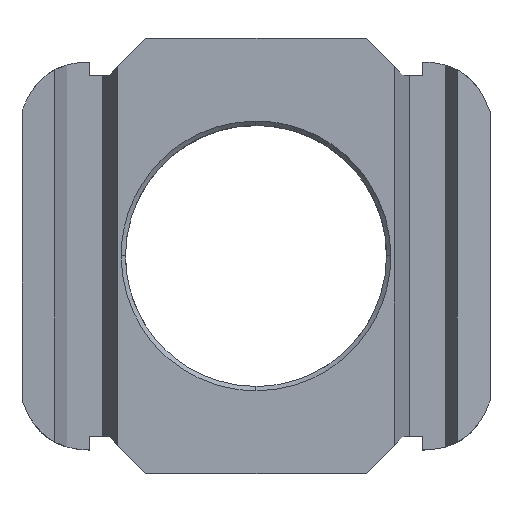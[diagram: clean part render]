
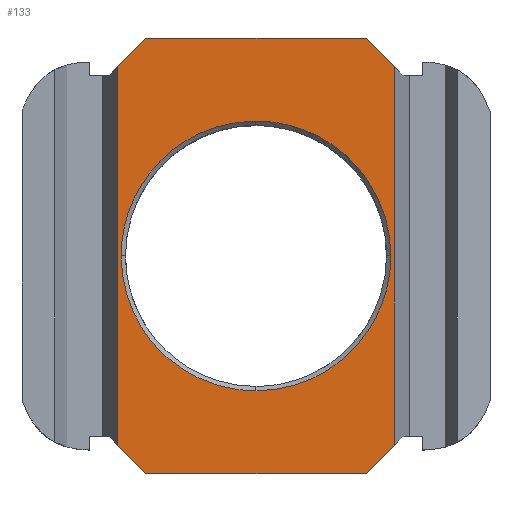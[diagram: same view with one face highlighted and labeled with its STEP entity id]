
A CAD part, top view. The second image highlights one B-rep face of the part: STEP entity #133.
In plain terms, the highlighted planar face has unit normal (0, 0, 1).
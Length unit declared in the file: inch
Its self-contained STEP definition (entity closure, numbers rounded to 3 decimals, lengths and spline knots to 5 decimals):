
#133=ADVANCED_FACE('',(#265,#266),#267,.T.);
#265=FACE_OUTER_BOUND('',#668,.T.);
#266=FACE_BOUND('',#669,.T.);
#267=PLANE('',#670);
#668=EDGE_LOOP('',(#1060,#1061,#1062,#1063,#1064,#1065,#1066,#1067));
#669=EDGE_LOOP('',(#1068,#1069,#1070,#1071));
#670=AXIS2_PLACEMENT_3D('',#1072,#1073,#1074);
#1060=ORIENTED_EDGE('',*,*,#1142,.T.);
#1061=ORIENTED_EDGE('',*,*,#1240,.F.);
#1062=ORIENTED_EDGE('',*,*,#1253,.T.);
#1063=ORIENTED_EDGE('',*,*,#1154,.F.);
#1064=ORIENTED_EDGE('',*,*,#1205,.T.);
#1065=ORIENTED_EDGE('',*,*,#1162,.T.);
#1066=ORIENTED_EDGE('',*,*,#1177,.T.);
#1067=ORIENTED_EDGE('',*,*,#1260,.T.);
#1068=ORIENTED_EDGE('',*,*,#1228,.F.);
#1069=ORIENTED_EDGE('',*,*,#1257,.F.);
#1070=ORIENTED_EDGE('',*,*,#1261,.F.);
#1071=ORIENTED_EDGE('',*,*,#1180,.F.);
#1072=CARTESIAN_POINT('',(0.47795,1.18241,0.375));
#1073=DIRECTION('',(0.0,0.0,1.0));
#1074=DIRECTION('',(-1.0,0.0,-0.0));
#1142=EDGE_CURVE('',#1313,#1310,#1314,.T.);
#1154=EDGE_CURVE('',#1332,#1327,#1334,.T.);
#1162=EDGE_CURVE('',#1347,#1345,#1348,.T.);
#1177=EDGE_CURVE('',#1345,#1372,#1374,.T.);
#1180=EDGE_CURVE('',#1376,#1379,#1380,.T.);
#1205=EDGE_CURVE('',#1332,#1347,#1415,.T.);
#1228=EDGE_CURVE('',#1445,#1376,#1447,.T.);
#1240=EDGE_CURVE('',#1459,#1310,#1461,.T.);
#1253=EDGE_CURVE('',#1459,#1327,#1475,.T.);
#1257=EDGE_CURVE('',#1478,#1445,#1480,.T.);
#1260=EDGE_CURVE('',#1372,#1313,#1483,.T.);
#1261=EDGE_CURVE('',#1379,#1478,#1484,.T.);
#1310=VERTEX_POINT('',#1569);
#1313=VERTEX_POINT('',#1573);
#1314=LINE('',#1574,#1575);
#1327=VERTEX_POINT('',#1594);
#1332=VERTEX_POINT('',#1601);
#1334=LINE('',#1604,#1605);
#1345=VERTEX_POINT('',#1632);
#1347=VERTEX_POINT('',#1635);
#1348=LINE('',#1636,#1637);
#1372=VERTEX_POINT('',#1687);
#1374=LINE('',#1690,#1691);
#1376=VERTEX_POINT('',#1693);
#1379=VERTEX_POINT('',#1697);
#1380=B_SPLINE_CURVE_WITH_KNOTS('',3,(#1698,#1699,#1700,#1701,#1702,#1703,#1704,#1705,#1706,#1707,#1708,#1709,#1710,#1711),.UNSPECIFIED.,.F.,.F.,(4,2,2,2,2,2,4),(0.0,0.00527,0.15801,0.30248,0.30952,0.45689,0.60495),.UNSPECIFIED.);
#1415=LINE('',#1787,#1788);
#1445=VERTEX_POINT('',#1851);
#1447=B_SPLINE_CURVE_WITH_KNOTS('',3,(#1854,#1855,#1856,#1857,#1858,#1859,#1860,#1861,#1862,#1863,#1864,#1865,#1866,#1867),.UNSPECIFIED.,.F.,.F.,(4,2,2,2,2,2,4),(0.0,0.08057,0.15874,0.30284,0.31025,0.45762,0.60569),.UNSPECIFIED.);
#1459=VERTEX_POINT('',#1896);
#1461=LINE('',#1899,#1900);
#1475=LINE('',#1928,#1929);
#1478=VERTEX_POINT('',#1945);
#1480=B_SPLINE_CURVE_WITH_KNOTS('',3,(#1948,#1949,#1950,#1951,#1952,#1953,#1954,#1955,#1956,#1957,#1958,#1959,#1960,#1961),.UNSPECIFIED.,.F.,.F.,(4,2,2,2,2,2,4),(0.0,0.14806,0.29542,0.30248,0.44694,0.59968,0.60495),.UNSPECIFIED.);
#1483=LINE('',#1964,#1965);
#1484=B_SPLINE_CURVE_WITH_KNOTS('',3,(#1966,#1967,#1968,#1969,#1970,#1971,#1972,#1973,#1974,#1975,#1976,#1977),.UNSPECIFIED.,.F.,.F.,(4,2,2,2,2,4),(0.0,0.15079,0.26365,0.30243,0.45406,0.60485),.UNSPECIFIED.);
#1569=CARTESIAN_POINT('',(0.8753,0.01316,0.375));
#1573=CARTESIAN_POINT('',(0.79456,-0.06759,0.375));
#1574=CARTESIAN_POINT('',(1.05432,0.19218,0.375));
#1575=VECTOR('',#1998,1.0);
#1594=CARTESIAN_POINT('',(0.79443,1.18241,0.375));
#1601=CARTESIAN_POINT('',(0.16146,1.18241,0.375));
#1604=CARTESIAN_POINT('',(0.08059,1.18241,0.375));
#1605=VECTOR('',#2008,1.0);
#1632=CARTESIAN_POINT('',(0.08059,0.01316,0.375));
#1635=CARTESIAN_POINT('',(0.08059,1.10155,0.375));
#1636=CARTESIAN_POINT('',(0.08059,1.18241,0.375));
#1637=VECTOR('',#2012,1.0);
#1687=CARTESIAN_POINT('',(0.16134,-0.06759,0.375));
#1690=CARTESIAN_POINT('',(-0.09843,0.19218,0.375));
#1691=VECTOR('',#2020,1.0);
#1693=CARTESIAN_POINT('',(0.47795,0.94485,0.375));
#1697=CARTESIAN_POINT('',(0.09045,0.55735,0.375));
#1698=CARTESIAN_POINT('',(0.47795,0.94485,0.375));
#1699=CARTESIAN_POINT('',(0.47619,0.94485,0.375));
#1700=CARTESIAN_POINT('',(0.47443,0.94483,0.375));
#1701=CARTESIAN_POINT('',(0.42177,0.94413,0.375));
#1702=CARTESIAN_POINT('',(0.37001,0.9331,0.375));
#1703=CARTESIAN_POINT('',(0.27918,0.89354,0.375));
#1704=CARTESIAN_POINT('',(0.23799,0.86541,0.375));
#1705=CARTESIAN_POINT('',(0.20222,0.82963,0.375));
#1706=CARTESIAN_POINT('',(0.20058,0.82796,0.375));
#1707=CARTESIAN_POINT('',(0.16485,0.7909,0.375));
#1708=CARTESIAN_POINT('',(0.13707,0.74824,0.375));
#1709=CARTESIAN_POINT('',(0.10011,0.65696,0.375));
#1710=CARTESIAN_POINT('',(0.09045,0.6067,0.375));
#1711=CARTESIAN_POINT('',(0.09045,0.55735,0.375));
#1787=CARTESIAN_POINT('',(0.2141,1.23506,0.375));
#1788=VECTOR('',#2037,1.0);
#1851=CARTESIAN_POINT('',(0.86545,0.55735,0.375));
#1854=CARTESIAN_POINT('',(0.86545,0.55735,0.375));
#1855=CARTESIAN_POINT('',(0.86545,0.5842,0.375));
#1856=CARTESIAN_POINT('',(0.86267,0.6112,0.375));
#1857=CARTESIAN_POINT('',(0.85178,0.66299,0.375));
#1858=CARTESIAN_POINT('',(0.84378,0.68807,0.375));
#1859=CARTESIAN_POINT('',(0.81419,0.756,0.375));
#1860=CARTESIAN_POINT('',(0.78615,0.7971,0.375));
#1861=CARTESIAN_POINT('',(0.75041,0.8329,0.375));
#1862=CARTESIAN_POINT('',(0.74864,0.83463,0.375));
#1863=CARTESIAN_POINT('',(0.7115,0.87044,0.375));
#1864=CARTESIAN_POINT('',(0.66884,0.89822,0.375));
#1865=CARTESIAN_POINT('',(0.57756,0.93518,0.375));
#1866=CARTESIAN_POINT('',(0.5273,0.94485,0.375));
#1867=CARTESIAN_POINT('',(0.47795,0.94485,0.375));
#1896=CARTESIAN_POINT('',(0.8753,1.10155,0.375));
#1899=CARTESIAN_POINT('',(0.8753,1.18241,0.375));
#1900=VECTOR('',#2054,1.0);
#1928=CARTESIAN_POINT('',(0.74179,1.23506,0.375));
#1929=VECTOR('',#2059,1.0);
#1945=CARTESIAN_POINT('',(0.47795,0.16985,0.375));
#1948=CARTESIAN_POINT('',(0.47795,0.16985,0.375));
#1949=CARTESIAN_POINT('',(0.5273,0.16985,0.375));
#1950=CARTESIAN_POINT('',(0.57755,0.17951,0.375));
#1951=CARTESIAN_POINT('',(0.66883,0.21647,0.375));
#1952=CARTESIAN_POINT('',(0.71149,0.24425,0.375));
#1953=CARTESIAN_POINT('',(0.74855,0.27997,0.375));
#1954=CARTESIAN_POINT('',(0.75023,0.28162,0.375));
#1955=CARTESIAN_POINT('',(0.78601,0.31739,0.375));
#1956=CARTESIAN_POINT('',(0.81413,0.35858,0.375));
#1957=CARTESIAN_POINT('',(0.8537,0.44941,0.375));
#1958=CARTESIAN_POINT('',(0.86473,0.50117,0.375));
#1959=CARTESIAN_POINT('',(0.86543,0.55383,0.375));
#1960=CARTESIAN_POINT('',(0.86545,0.55559,0.375));
#1961=CARTESIAN_POINT('',(0.86545,0.55735,0.375));
#1964=CARTESIAN_POINT('',(0.08059,-0.06759,0.375));
#1965=VECTOR('',#2061,1.0);
#1966=CARTESIAN_POINT('',(0.09045,0.55735,0.375));
#1967=CARTESIAN_POINT('',(0.09045,0.50708,0.375));
#1968=CARTESIAN_POINT('',(0.10049,0.45587,0.375));
#1969=CARTESIAN_POINT('',(0.13406,0.37465,0.375));
#1970=CARTESIAN_POINT('',(0.15384,0.34154,0.375));
#1971=CARTESIAN_POINT('',(0.18608,0.30212,0.375));
#1972=CARTESIAN_POINT('',(0.1948,0.29248,0.375));
#1973=CARTESIAN_POINT('',(0.23968,0.2476,0.375));
#1974=CARTESIAN_POINT('',(0.2833,0.2184,0.375));
#1975=CARTESIAN_POINT('',(0.37647,0.17989,0.375));
#1976=CARTESIAN_POINT('',(0.42768,0.16985,0.375));
#1977=CARTESIAN_POINT('',(0.47795,0.16985,0.375));
#1998=DIRECTION('',(0.707,0.707,0.0));
#2008=DIRECTION('',(1.0,0.0,0.0));
#2012=DIRECTION('',(0.0,-1.0,0.0));
#2020=DIRECTION('',(0.707,-0.707,0.0));
#2037=DIRECTION('',(-0.707,-0.707,0.0));
#2054=DIRECTION('',(0.0,-1.0,0.0));
#2059=DIRECTION('',(-0.707,0.707,0.0));
#2061=DIRECTION('',(1.0,0.0,0.0));
